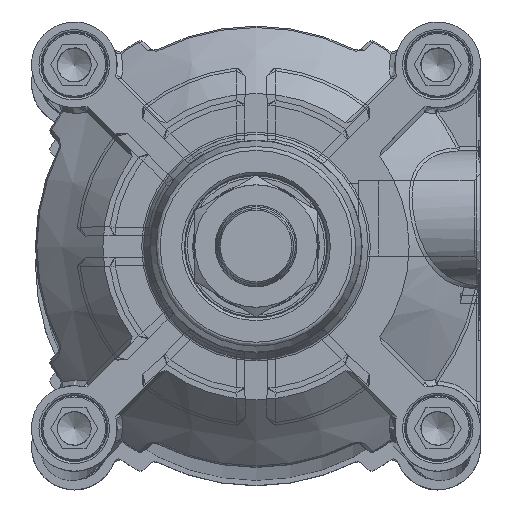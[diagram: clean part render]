
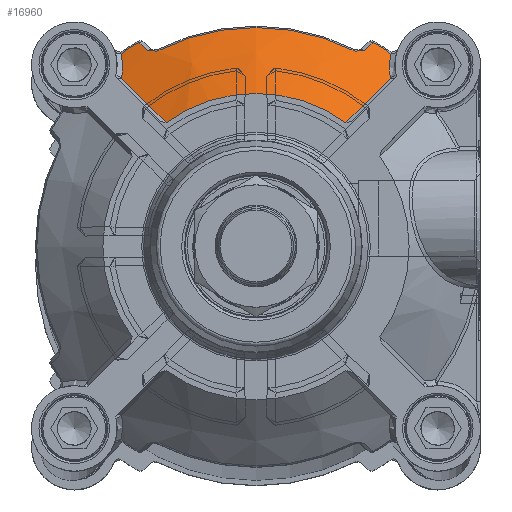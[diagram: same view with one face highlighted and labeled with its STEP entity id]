
A CAD part, top view. The second image highlights one B-rep face of the part: STEP entity #16960.
In plain terms, the highlighted conical face has half-angle 47.936 degrees and reference radius 47.75 mm.
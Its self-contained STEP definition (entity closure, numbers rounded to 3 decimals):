
#405=B_SPLINE_CURVE_WITH_KNOTS('',3,(#26105,#26106,#26107,#26108),
 .UNSPECIFIED.,.F.,.F.,(4,4),(0.,1.),.UNSPECIFIED.);
#411=B_SPLINE_CURVE_WITH_KNOTS('',3,(#26192,#26193,#26194,#26195,#26196,
#26197,#26198,#26199,#26200,#26201),.UNSPECIFIED.,.F.,.F.,(4,1,1,1,1,1,
1,4),(0.,0.25,0.375,0.5,0.625,0.75,0.875,1.),.UNSPECIFIED.);
#414=B_SPLINE_CURVE_WITH_KNOTS('',3,(#26257,#26258,#26259,#26260,#26261),
 .UNSPECIFIED.,.F.,.F.,(4,1,4),(0.,0.5,1.),.UNSPECIFIED.);
#420=B_SPLINE_CURVE_WITH_KNOTS('',3,(#26322,#26323,#26324,#26325,#26326),
 .UNSPECIFIED.,.F.,.F.,(4,1,4),(0.,0.5,1.),.UNSPECIFIED.);
#423=B_SPLINE_CURVE_WITH_KNOTS('',3,(#26352,#26353,#26354,#26355),
 .UNSPECIFIED.,.F.,.F.,(4,4),(0.,1.),.UNSPECIFIED.);
#431=B_SPLINE_CURVE_WITH_KNOTS('',3,(#26456,#26457,#26458,#26459,#26460,
#26461,#26462,#26463,#26464),.UNSPECIFIED.,.F.,.F.,(4,1,1,1,1,1,4),(0.,
0.25,0.375,0.5,0.625,0.75,1.),.UNSPECIFIED.);
#434=B_SPLINE_CURVE_WITH_KNOTS('',3,(#26481,#26482,#26483,#26484),
 .UNSPECIFIED.,.F.,.F.,(4,4),(0.,1.),.UNSPECIFIED.);
#435=B_SPLINE_CURVE_WITH_KNOTS('',3,(#26501,#26502,#26503,#26504),
 .UNSPECIFIED.,.F.,.F.,(4,4),(0.,1.),.UNSPECIFIED.);
#2435=CONICAL_SURFACE('',#18032,47.75,0.837);
#4117=ORIENTED_EDGE('',*,*,#7188,.F.);
#4118=ORIENTED_EDGE('',*,*,#7185,.F.);
#4119=ORIENTED_EDGE('',*,*,#7180,.F.);
#4120=ORIENTED_EDGE('',*,*,#7174,.F.);
#4121=ORIENTED_EDGE('',*,*,#7167,.F.);
#4122=ORIENTED_EDGE('',*,*,#7169,.F.);
#4123=ORIENTED_EDGE('',*,*,#7161,.F.);
#4124=ORIENTED_EDGE('',*,*,#7199,.F.);
#4125=ORIENTED_EDGE('',*,*,#7159,.F.);
#4126=ORIENTED_EDGE('',*,*,#7154,.F.);
#4127=ORIENTED_EDGE('',*,*,#7146,.F.);
#4128=ORIENTED_EDGE('',*,*,#6975,.F.);
#6975=EDGE_CURVE('',#8696,#8697,#9688,.T.);
#7146=EDGE_CURVE('',#8697,#8788,#405,.T.);
#7154=EDGE_CURVE('',#8788,#8791,#411,.F.);
#7159=EDGE_CURVE('',#8791,#8797,#9738,.T.);
#7161=EDGE_CURVE('',#8798,#8799,#414,.F.);
#7167=EDGE_CURVE('',#8804,#8805,#420,.F.);
#7169=EDGE_CURVE('',#8799,#8804,#9740,.T.);
#7174=EDGE_CURVE('',#8805,#8808,#423,.T.);
#7180=EDGE_CURVE('',#8808,#8811,#9744,.T.);
#7185=EDGE_CURVE('',#8811,#8815,#431,.F.);
#7188=EDGE_CURVE('',#8815,#8696,#434,.T.);
#7199=EDGE_CURVE('',#8797,#8798,#435,.T.);
#8696=VERTEX_POINT('',#25063);
#8697=VERTEX_POINT('',#25064);
#8788=VERTEX_POINT('',#26092);
#8791=VERTEX_POINT('',#26141);
#8797=VERTEX_POINT('',#26218);
#8798=VERTEX_POINT('',#26262);
#8799=VERTEX_POINT('',#26263);
#8804=VERTEX_POINT('',#26321);
#8805=VERTEX_POINT('',#26327);
#8808=VERTEX_POINT('',#26349);
#8811=VERTEX_POINT('',#26395);
#8815=VERTEX_POINT('',#26426);
#9688=CIRCLE('',#17903,37.5);
#9738=CIRCLE('',#18010,57.67);
#9740=CIRCLE('',#18013,53.67);
#9744=CIRCLE('',#18020,57.67);
#10558=EDGE_LOOP('',(#4117,#4118,#4119,#4120,#4121,#4122,#4123,#4124,#4125,
#4126,#4127,#4128));
#11462=FACE_BOUND('',#10558,.T.);
#16960=ADVANCED_FACE('',(#11462),#2435,.T.);
#17903=AXIS2_PLACEMENT_3D('',#25062,#20085,#20086);
#18010=AXIS2_PLACEMENT_3D('',#26230,#20345,#20346);
#18013=AXIS2_PLACEMENT_3D('',#26333,#20351,#20352);
#18020=AXIS2_PLACEMENT_3D('',#26407,#20365,#20366);
#18032=AXIS2_PLACEMENT_3D('',#26512,#20401,#20402);
#20085=DIRECTION('',(0.,0.,1.));
#20086=DIRECTION('',(1.,0.,0.));
#20345=DIRECTION('',(0.,0.,-1.));
#20346=DIRECTION('',(-0.54,0.842,0.));
#20351=DIRECTION('',(0.,0.,-1.));
#20352=DIRECTION('',(0.,1.,0.));
#20365=DIRECTION('',(0.,0.,-1.));
#20366=DIRECTION('',(0.54,0.842,0.));
#20401=DIRECTION('',(0.,0.,-1.));
#20402=DIRECTION('',(0.707,-0.707,0.));
#25062=CARTESIAN_POINT('',(0.,0.,48.5));
#25063=CARTESIAN_POINT('',(22.019,30.355,48.5));
#25064=CARTESIAN_POINT('',(-22.019,30.355,48.5));
#26092=CARTESIAN_POINT('',(-32.903,41.282,34.702));
#26105=CARTESIAN_POINT('',(-22.021,30.358,48.504));
#26106=CARTESIAN_POINT('',(-25.649,34.,43.905));
#26107=CARTESIAN_POINT('',(-29.277,37.642,39.305));
#26108=CARTESIAN_POINT('',(-32.905,41.284,34.706));
#26141=CARTESIAN_POINT('',(-33.093,47.23,30.298));
#26192=CARTESIAN_POINT('',(-33.093,47.23,30.298));
#26193=CARTESIAN_POINT('',(-32.95,46.754,30.724));
#26194=CARTESIAN_POINT('',(-32.784,46.043,31.335));
#26195=CARTESIAN_POINT('',(-32.655,45.084,32.105));
#26196=CARTESIAN_POINT('',(-32.603,44.391,32.638));
#26197=CARTESIAN_POINT('',(-32.596,43.598,33.217));
#26198=CARTESIAN_POINT('',(-32.639,42.859,33.726));
#26199=CARTESIAN_POINT('',(-32.74,42.051,34.248));
#26200=CARTESIAN_POINT('',(-32.842,41.538,34.555));
#26201=CARTESIAN_POINT('',(-32.903,41.282,34.702));
#26218=CARTESIAN_POINT('',(-28.682,50.032,30.298));
#26230=CARTESIAN_POINT('',(0.,0.,30.298));
#26257=CARTESIAN_POINT('',(-24.254,47.877,33.908));
#26258=CARTESIAN_POINT('',(-24.649,47.677,33.908));
#26259=CARTESIAN_POINT('',(-25.591,47.576,33.593));
#26260=CARTESIAN_POINT('',(-26.219,47.907,33.057));
#26261=CARTESIAN_POINT('',(-26.49,48.141,32.754));
#26262=CARTESIAN_POINT('',(-26.49,48.141,32.754));
#26263=CARTESIAN_POINT('',(-24.254,47.877,33.908));
#26321=CARTESIAN_POINT('',(24.254,47.877,33.908));
#26322=CARTESIAN_POINT('',(26.49,48.141,32.754));
#26323=CARTESIAN_POINT('',(26.219,47.908,33.057));
#26324=CARTESIAN_POINT('',(25.585,47.574,33.597));
#26325=CARTESIAN_POINT('',(24.645,47.679,33.908));
#26326=CARTESIAN_POINT('',(24.254,47.877,33.908));
#26327=CARTESIAN_POINT('',(26.49,48.141,32.754));
#26333=CARTESIAN_POINT('',(0.,0.,33.908));
#26349=CARTESIAN_POINT('',(28.682,50.032,30.298));
#26352=CARTESIAN_POINT('',(26.49,48.141,32.755));
#26353=CARTESIAN_POINT('',(27.221,48.772,31.936));
#26354=CARTESIAN_POINT('',(27.952,49.402,31.117));
#26355=CARTESIAN_POINT('',(28.682,50.032,30.298));
#26395=CARTESIAN_POINT('',(33.093,47.23,30.298));
#26407=CARTESIAN_POINT('',(0.,0.,30.298));
#26426=CARTESIAN_POINT('',(32.903,41.282,34.702));
#26456=CARTESIAN_POINT('',(32.903,41.282,34.702));
#26457=CARTESIAN_POINT('',(32.785,41.783,34.414));
#26458=CARTESIAN_POINT('',(32.659,42.548,33.939));
#26459=CARTESIAN_POINT('',(32.595,43.573,33.235));
#26460=CARTESIAN_POINT('',(32.603,44.39,32.639));
#26461=CARTESIAN_POINT('',(32.655,45.079,32.109));
#26462=CARTESIAN_POINT('',(32.783,46.042,31.335));
#26463=CARTESIAN_POINT('',(32.949,46.754,30.724));
#26464=CARTESIAN_POINT('',(33.093,47.23,30.298));
#26481=CARTESIAN_POINT('',(32.905,41.284,34.706));
#26482=CARTESIAN_POINT('',(29.277,37.642,39.305));
#26483=CARTESIAN_POINT('',(25.649,34.,43.905));
#26484=CARTESIAN_POINT('',(22.021,30.358,48.504));
#26501=CARTESIAN_POINT('',(-28.682,50.032,30.298));
#26502=CARTESIAN_POINT('',(-27.952,49.402,31.117));
#26503=CARTESIAN_POINT('',(-27.221,48.772,31.936));
#26504=CARTESIAN_POINT('',(-26.49,48.141,32.755));
#26512=CARTESIAN_POINT('',(0.,0.,39.25));
